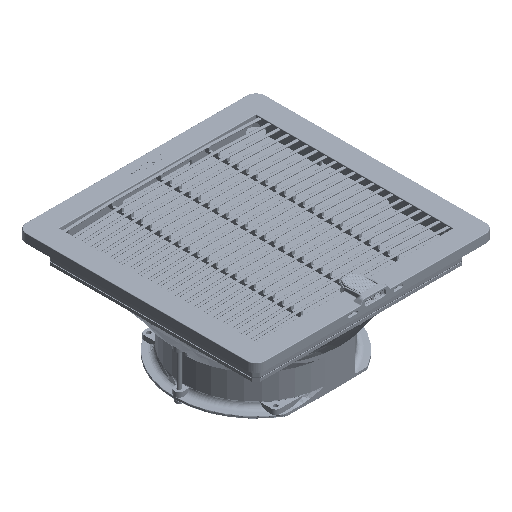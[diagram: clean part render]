
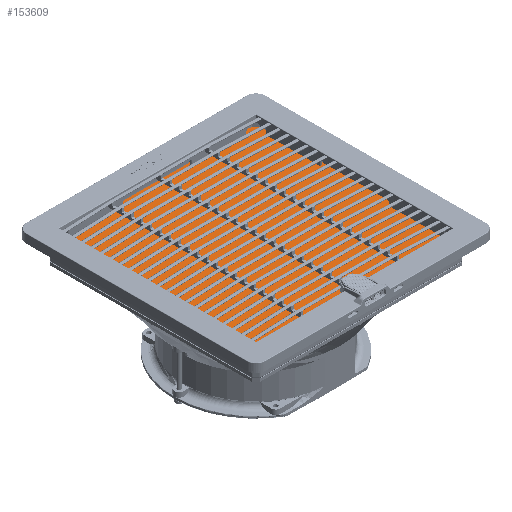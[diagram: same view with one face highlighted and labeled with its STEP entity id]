
A CAD part, isometric view. The second image highlights one B-rep face of the part: STEP entity #153609.
In plain terms, the highlighted planar face has unit normal (0, 0, 1).
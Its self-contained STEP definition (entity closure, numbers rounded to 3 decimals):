
#6103 = VECTOR ( 'NONE', #132395, 1000. ) ;
#9732 = LINE ( 'NONE', #295457, #165215 ) ;
#11851 = DIRECTION ( 'NONE',  ( -1., 0., 0. ) ) ;
#22986 = CARTESIAN_POINT ( 'NONE',  ( 110., 94., 10. ) ) ;
#23448 = CARTESIAN_POINT ( 'NONE',  ( -110., -110., 10. ) ) ;
#26375 = DIRECTION ( 'NONE',  ( 0., 0., 1. ) ) ;
#27613 = ORIENTED_EDGE ( 'NONE', *, *, #259114, .T. ) ;
#28492 = EDGE_CURVE ( 'NONE', #120769, #240549, #156168, .T. ) ;
#28813 = CARTESIAN_POINT ( 'NONE',  ( -94., 110., 10. ) ) ;
#34110 = DIRECTION ( 'NONE',  ( -1., 0., 0. ) ) ;
#37041 = CARTESIAN_POINT ( 'NONE',  ( 94., -94., 10. ) ) ;
#38143 = VERTEX_POINT ( 'NONE', #22986 ) ;
#43666 = VERTEX_POINT ( 'NONE', #134594 ) ;
#58304 = EDGE_CURVE ( 'NONE', #38143, #114124, #301603, .T. ) ;
#61540 = AXIS2_PLACEMENT_3D ( 'NONE', #269431, #240863, #34110 ) ;
#73550 = VERTEX_POINT ( 'NONE', #102836 ) ;
#76660 = DIRECTION ( 'NONE',  ( 0., 1., 0. ) ) ;
#87280 = AXIS2_PLACEMENT_3D ( 'NONE', #37041, #215274, #11851 ) ;
#87500 = VECTOR ( 'NONE', #76660, 1000. ) ;
#89508 = CARTESIAN_POINT ( 'NONE',  ( 94., 110., 10. ) ) ;
#91874 = EDGE_CURVE ( 'NONE', #240549, #43666, #291278, .T. ) ;
#101239 = EDGE_CURVE ( 'NONE', #112254, #73550, #9732, .T. ) ;
#102836 = CARTESIAN_POINT ( 'NONE',  ( -110., -94., 10. ) ) ;
#103329 = AXIS2_PLACEMENT_3D ( 'NONE', #202713, #177455, #152195 ) ;
#112254 = VERTEX_POINT ( 'NONE', #309528 ) ;
#112746 = EDGE_CURVE ( 'NONE', #265894, #112254, #211746, .T. ) ;
#114124 = VERTEX_POINT ( 'NONE', #89508 ) ;
#120769 = VERTEX_POINT ( 'NONE', #142009 ) ;
#125353 = FACE_OUTER_BOUND ( 'NONE', #299295, .T. ) ;
#125416 = LINE ( 'NONE', #306957, #87500 ) ;
#132395 = DIRECTION ( 'NONE',  ( -1., 0., 0. ) ) ;
#134594 = CARTESIAN_POINT ( 'NONE',  ( 110., -94., 10. ) ) ;
#135677 = LINE ( 'NONE', #214683, #6103 ) ;
#136041 = ORIENTED_EDGE ( 'NONE', *, *, #91874, .T. ) ;
#136384 = ORIENTED_EDGE ( 'NONE', *, *, #28492, .T. ) ;
#138586 = DIRECTION ( 'NONE',  ( -1., 0., 0. ) ) ;
#142009 = CARTESIAN_POINT ( 'NONE',  ( -94., -110., 10. ) ) ;
#149180 = DIRECTION ( 'NONE',  ( -1., 0., 0. ) ) ;
#152195 = DIRECTION ( 'NONE',  ( -1., 0., 0. ) ) ;
#153609 = ADVANCED_FACE ( 'NONE', ( #125353 ), #330497, .F. ) ;
#156168 = LINE ( 'NONE', #23448, #223966 ) ;
#165215 = VECTOR ( 'NONE', #241659, 1000. ) ;
#177455 = DIRECTION ( 'NONE',  ( 0., 0., -1. ) ) ;
#179322 = ORIENTED_EDGE ( 'NONE', *, *, #214150, .T. ) ;
#189004 = DIRECTION ( 'NONE',  ( 0., 0., 1. ) ) ;
#202713 = CARTESIAN_POINT ( 'NONE',  ( 0., 0., 10. ) ) ;
#210094 = CIRCLE ( 'NONE', #242299, 16. ) ;
#211746 = CIRCLE ( 'NONE', #61540, 16. ) ;
#214150 = EDGE_CURVE ( 'NONE', #114124, #265894, #135677, .T. ) ;
#214683 = CARTESIAN_POINT ( 'NONE',  ( -110., 110., 10. ) ) ;
#215274 = DIRECTION ( 'NONE',  ( 0., 0., 1. ) ) ;
#216940 = EDGE_CURVE ( 'NONE', #43666, #38143, #125416, .T. ) ;
#223966 = VECTOR ( 'NONE', #258730, 1000. ) ;
#226178 = ORIENTED_EDGE ( 'NONE', *, *, #112746, .T. ) ;
#233090 = CARTESIAN_POINT ( 'NONE',  ( 94., 94., 10. ) ) ;
#237740 = CARTESIAN_POINT ( 'NONE',  ( -94., -94., 10. ) ) ;
#240549 = VERTEX_POINT ( 'NONE', #327613 ) ;
#240863 = DIRECTION ( 'NONE',  ( 0., 0., 1. ) ) ;
#241659 = DIRECTION ( 'NONE',  ( 0., -1., 0. ) ) ;
#242299 = AXIS2_PLACEMENT_3D ( 'NONE', #237740, #189004, #138586 ) ;
#258730 = DIRECTION ( 'NONE',  ( 1., 0., 0. ) ) ;
#259114 = EDGE_CURVE ( 'NONE', #73550, #120769, #210094, .T. ) ;
#262851 = ORIENTED_EDGE ( 'NONE', *, *, #58304, .T. ) ;
#265894 = VERTEX_POINT ( 'NONE', #28813 ) ;
#269431 = CARTESIAN_POINT ( 'NONE',  ( -94., 94., 10. ) ) ;
#285515 = AXIS2_PLACEMENT_3D ( 'NONE', #233090, #26375, #149180 ) ;
#291278 = CIRCLE ( 'NONE', #87280, 16. ) ;
#295457 = CARTESIAN_POINT ( 'NONE',  ( -110., -110., 10. ) ) ;
#298385 = ORIENTED_EDGE ( 'NONE', *, *, #216940, .T. ) ;
#299295 = EDGE_LOOP ( 'NONE', ( #136384, #136041, #298385, #262851, #179322, #226178, #321155, #27613 ) ) ;
#301603 = CIRCLE ( 'NONE', #285515, 16. ) ;
#306957 = CARTESIAN_POINT ( 'NONE',  ( 110., -110., 10. ) ) ;
#309528 = CARTESIAN_POINT ( 'NONE',  ( -110., 94., 10. ) ) ;
#321155 = ORIENTED_EDGE ( 'NONE', *, *, #101239, .T. ) ;
#327613 = CARTESIAN_POINT ( 'NONE',  ( 94., -110., 10. ) ) ;
#330497 = PLANE ( 'NONE',  #103329 ) ;
